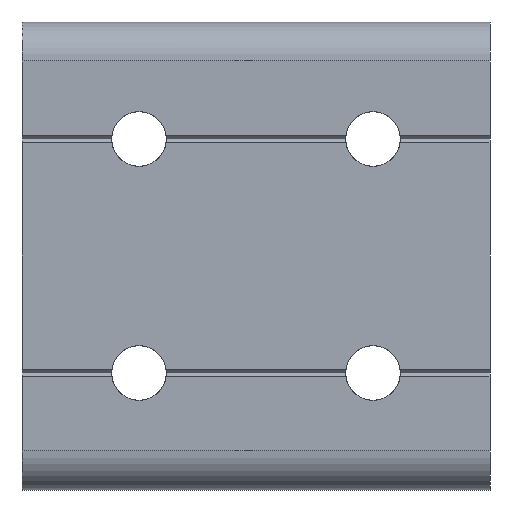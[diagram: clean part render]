
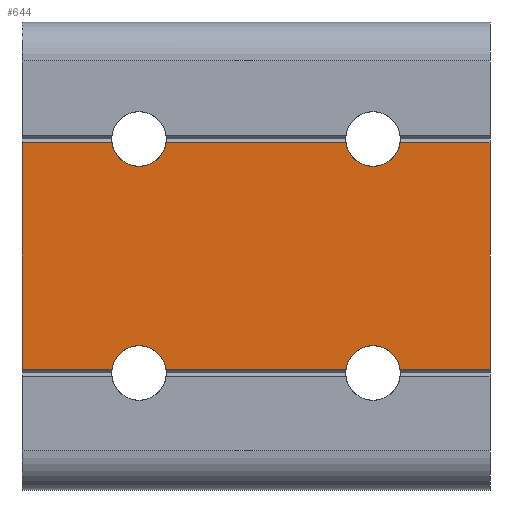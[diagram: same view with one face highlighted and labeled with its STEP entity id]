
A CAD part, front view. The second image highlights one B-rep face of the part: STEP entity #644.
In plain terms, the highlighted planar face has unit normal (0, -1, 0).
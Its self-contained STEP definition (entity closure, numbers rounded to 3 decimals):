
#43=CIRCLE('',#674,3.5);
#44=CIRCLE('',#675,3.5);
#45=CIRCLE('',#676,3.5);
#46=CIRCLE('',#677,3.5);
#59=ORIENTED_EDGE('',*,*,#199,.F.);
#60=ORIENTED_EDGE('',*,*,#200,.T.);
#61=ORIENTED_EDGE('',*,*,#201,.F.);
#62=ORIENTED_EDGE('',*,*,#202,.T.);
#63=ORIENTED_EDGE('',*,*,#203,.F.);
#64=ORIENTED_EDGE('',*,*,#204,.T.);
#65=ORIENTED_EDGE('',*,*,#205,.F.);
#66=ORIENTED_EDGE('',*,*,#206,.T.);
#67=ORIENTED_EDGE('',*,*,#207,.F.);
#68=ORIENTED_EDGE('',*,*,#208,.T.);
#69=ORIENTED_EDGE('',*,*,#209,.F.);
#70=ORIENTED_EDGE('',*,*,#210,.T.);
#199=EDGE_CURVE('',#269,#270,#317,.T.);
#200=EDGE_CURVE('',#269,#271,#43,.T.);
#201=EDGE_CURVE('',#272,#271,#318,.T.);
#202=EDGE_CURVE('',#272,#273,#319,.T.);
#203=EDGE_CURVE('',#274,#273,#320,.T.);
#204=EDGE_CURVE('',#274,#275,#44,.T.);
#205=EDGE_CURVE('',#276,#275,#321,.T.);
#206=EDGE_CURVE('',#276,#277,#45,.T.);
#207=EDGE_CURVE('',#278,#277,#322,.T.);
#208=EDGE_CURVE('',#278,#279,#323,.T.);
#209=EDGE_CURVE('',#280,#279,#324,.T.);
#210=EDGE_CURVE('',#280,#270,#46,.T.);
#269=VERTEX_POINT('',#884);
#270=VERTEX_POINT('',#885);
#271=VERTEX_POINT('',#887);
#272=VERTEX_POINT('',#889);
#273=VERTEX_POINT('',#891);
#274=VERTEX_POINT('',#893);
#275=VERTEX_POINT('',#895);
#276=VERTEX_POINT('',#897);
#277=VERTEX_POINT('',#899);
#278=VERTEX_POINT('',#901);
#279=VERTEX_POINT('',#903);
#280=VERTEX_POINT('',#905);
#317=LINE('',#883,#355);
#318=LINE('',#888,#356);
#319=LINE('',#890,#357);
#320=LINE('',#892,#358);
#321=LINE('',#896,#359);
#322=LINE('',#900,#360);
#323=LINE('',#902,#361);
#324=LINE('',#904,#362);
#355=VECTOR('',#733,1000.);
#356=VECTOR('',#736,1000.);
#357=VECTOR('',#737,1000.);
#358=VECTOR('',#738,1000.);
#359=VECTOR('',#741,1000.);
#360=VECTOR('',#744,1000.);
#361=VECTOR('',#745,1000.);
#362=VECTOR('',#746,1000.);
#393=EDGE_LOOP('',(#59,#60,#61,#62,#63,#64,#65,#66,#67,#68,#69,#70));
#425=FACE_BOUND('',#393,.T.);
#457=PLANE('',#673);
#644=ADVANCED_FACE('',(#425),#457,.T.);
#673=AXIS2_PLACEMENT_3D('',#882,#731,#732);
#674=AXIS2_PLACEMENT_3D('',#886,#734,#735);
#675=AXIS2_PLACEMENT_3D('',#894,#739,#740);
#676=AXIS2_PLACEMENT_3D('',#898,#742,#743);
#677=AXIS2_PLACEMENT_3D('',#906,#747,#748);
#731=DIRECTION('',(0.,-1.,0.));
#732=DIRECTION('',(0.,0.,-1.));
#733=DIRECTION('',(1.,0.,0.));
#734=DIRECTION('',(0.,1.,0.));
#735=DIRECTION('',(0.,0.,-1.));
#736=DIRECTION('',(1.,0.,0.));
#737=DIRECTION('',(0.,0.,-1.));
#738=DIRECTION('',(-1.,0.,0.));
#739=DIRECTION('',(0.,1.,0.));
#740=DIRECTION('',(0.,0.,-1.));
#741=DIRECTION('',(-1.,0.,0.));
#742=DIRECTION('',(0.,1.,0.));
#743=DIRECTION('',(0.,0.,-1.));
#744=DIRECTION('',(-1.,0.,0.));
#745=DIRECTION('',(0.,0.,1.));
#746=DIRECTION('',(1.,0.,0.));
#747=DIRECTION('',(0.,1.,0.));
#748=DIRECTION('',(0.,0.,-1.));
#882=CARTESIAN_POINT('',(0.,0.,0.));
#883=CARTESIAN_POINT('',(-55.,0.,14.5));
#884=CARTESIAN_POINT('',(-11.536,0.,14.5));
#885=CARTESIAN_POINT('',(11.536,0.,14.5));
#886=CARTESIAN_POINT('',(-15.,0.,15.));
#887=CARTESIAN_POINT('',(-18.464,0.,14.5));
#888=CARTESIAN_POINT('',(-55.,0.,14.5));
#889=CARTESIAN_POINT('',(-30.,0.,14.5));
#890=CARTESIAN_POINT('',(-30.,0.,30.));
#891=CARTESIAN_POINT('',(-30.,0.,-14.5));
#892=CARTESIAN_POINT('',(0.,0.,-14.5));
#893=CARTESIAN_POINT('',(-18.464,0.,-14.5));
#894=CARTESIAN_POINT('',(-15.,0.,-15.));
#895=CARTESIAN_POINT('',(-11.536,0.,-14.5));
#896=CARTESIAN_POINT('',(0.,0.,-14.5));
#897=CARTESIAN_POINT('',(11.536,0.,-14.5));
#898=CARTESIAN_POINT('',(15.,0.,-15.));
#899=CARTESIAN_POINT('',(18.464,0.,-14.5));
#900=CARTESIAN_POINT('',(0.,0.,-14.5));
#901=CARTESIAN_POINT('',(30.,0.,-14.5));
#902=CARTESIAN_POINT('',(30.,0.,-30.));
#903=CARTESIAN_POINT('',(30.,0.,14.5));
#904=CARTESIAN_POINT('',(-55.,0.,14.5));
#905=CARTESIAN_POINT('',(18.464,0.,14.5));
#906=CARTESIAN_POINT('',(15.,0.,15.));
